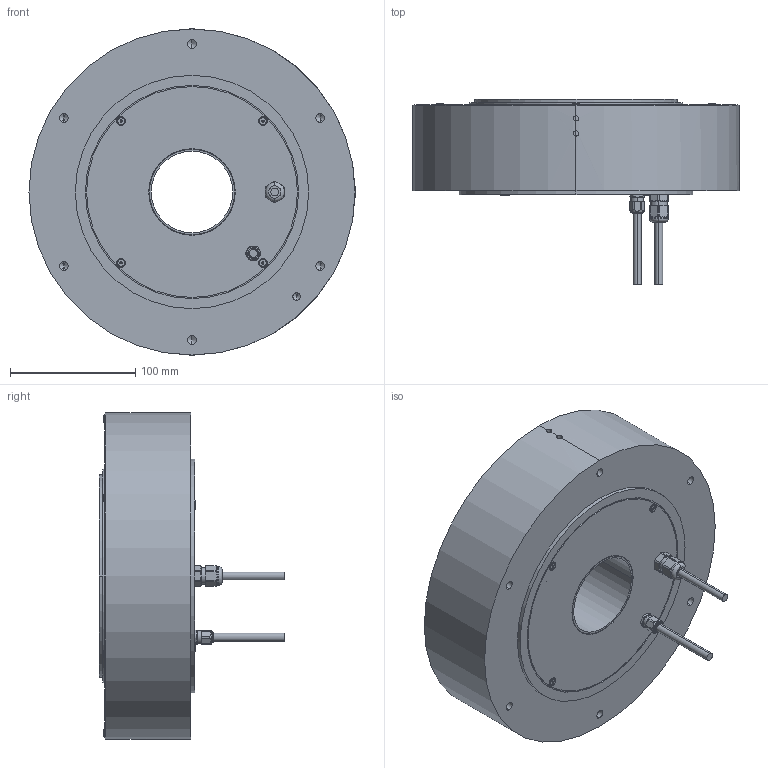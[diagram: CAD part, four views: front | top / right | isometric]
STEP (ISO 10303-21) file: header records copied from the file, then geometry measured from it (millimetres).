
FILE_DESCRIPTION (( 'STEP AP214' ), '1' );
FILE_NAME ('ND250-70-LSB-UC.step', '2025-03-11T01:06:49', ( '' ), ( '' ), 'SwSTEP 2.0', 'SolidWorks 2024', '' );
FILE_SCHEMA (( 'AUTOMOTIVE_DESIGN' ));
Length unit declared in the file: millimetre
Products named in the file (1): ND250-70-LSB-UC
Bounding box: 260 x 148 x 260 mm (x, y, z)
Volume: 1326199.4 mm3; surface area: 359765.4 mm2
Topology: 17 solids, 17 shells, 684 faces, 1749 edges, 1090 vertices
Faces by surface type: cylinder 388, cone 133, plane 110, torus 33, sphere 20
Entity records: 22253 total; most frequent: CARTESIAN_POINT 5598, DIRECTION 3558, ORIENTED_EDGE 3370, EDGE_CURVE 1685, AXIS2_PLACEMENT_3D 1464, VERTEX_POINT 1090, EDGE_LOOP 785, CIRCLE 779
